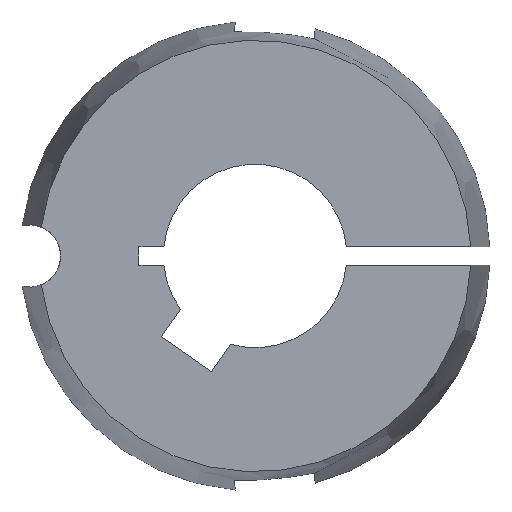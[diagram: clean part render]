
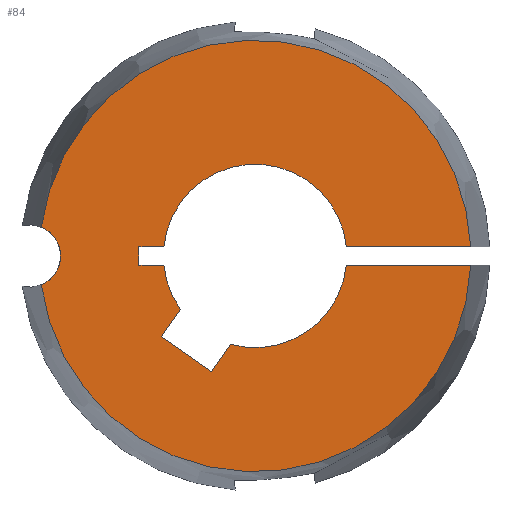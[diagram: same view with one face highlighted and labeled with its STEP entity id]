
A CAD part, left-side view. The second image highlights one B-rep face of the part: STEP entity #84.
In plain terms, the highlighted planar face has unit normal (-1, 0, 0).
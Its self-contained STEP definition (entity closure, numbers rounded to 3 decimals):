
#84 = ADVANCED_FACE( '', ( #114 ), #115, .F. );
#114 = FACE_OUTER_BOUND( '', #154, .T. );
#115 = PLANE( '', #155 );
#154 = EDGE_LOOP( '', ( #251, #252, #253, #254, #255, #256, #257, #258, #259, #260, #261, #262, #263, #264 ) );
#155 = AXIS2_PLACEMENT_3D( '', #265, #266, #267 );
#251 = ORIENTED_EDGE( '', *, *, #349, .T. );
#252 = ORIENTED_EDGE( '', *, *, #381, .F. );
#253 = ORIENTED_EDGE( '', *, *, #352, .T. );
#254 = ORIENTED_EDGE( '', *, *, #365, .T. );
#255 = ORIENTED_EDGE( '', *, *, #363, .T. );
#256 = ORIENTED_EDGE( '', *, *, #360, .T. );
#257 = ORIENTED_EDGE( '', *, *, #369, .T. );
#258 = ORIENTED_EDGE( '', *, *, #382, .T. );
#259 = ORIENTED_EDGE( '', *, *, #383, .T. );
#260 = ORIENTED_EDGE( '', *, *, #384, .T. );
#261 = ORIENTED_EDGE( '', *, *, #385, .T. );
#262 = ORIENTED_EDGE( '', *, *, #386, .T. );
#263 = ORIENTED_EDGE( '', *, *, #354, .T. );
#264 = ORIENTED_EDGE( '', *, *, #387, .F. );
#265 = CARTESIAN_POINT( '', ( -22.3, 0., 0. ) );
#266 = DIRECTION( '', ( 1., 0., 0. ) );
#267 = DIRECTION( '', ( 0., 0., -1. ) );
#349 = EDGE_CURVE( '', #402, #407, #409, .T. );
#352 = EDGE_CURVE( '', #415, #413, #416, .T. );
#354 = EDGE_CURVE( '', #418, #419, #420, .T. );
#360 = EDGE_CURVE( '', #431, #429, #432, .T. );
#363 = EDGE_CURVE( '', #436, #431, #437, .T. );
#365 = EDGE_CURVE( '', #413, #436, #439, .T. );
#369 = EDGE_CURVE( '', #429, #443, #445, .T. );
#381 = EDGE_CURVE( '', #415, #407, #465, .T. );
#382 = EDGE_CURVE( '', #443, #466, #467, .T. );
#383 = EDGE_CURVE( '', #466, #468, #469, .T. );
#384 = EDGE_CURVE( '', #468, #470, #471, .T. );
#385 = EDGE_CURVE( '', #470, #472, #473, .T. );
#386 = EDGE_CURVE( '', #472, #418, #474, .T. );
#387 = EDGE_CURVE( '', #402, #419, #475, .T. );
#402 = VERTEX_POINT( '', #513 );
#407 = VERTEX_POINT( '', #523 );
#409 = CIRCLE( '', #530, 2.55 );
#413 = VERTEX_POINT( '', #535 );
#415 = VERTEX_POINT( '', #538 );
#416 = LINE( '', #539, #540 );
#418 = VERTEX_POINT( '', #548 );
#419 = VERTEX_POINT( '', #549 );
#420 = LINE( '', #550, #551 );
#429 = VERTEX_POINT( '', #569 );
#431 = VERTEX_POINT( '', #572 );
#432 = LINE( '', #573, #574 );
#436 = VERTEX_POINT( '', #580 );
#437 = LINE( '', #581, #582 );
#439 = CIRCLE( '', #585, 7.5 );
#443 = VERTEX_POINT( '', #590 );
#445 = LINE( '', #593, #594 );
#465 = CIRCLE( '', #617, 17.641 );
#466 = VERTEX_POINT( '', #618 );
#467 = CIRCLE( '', #619, 7.5 );
#468 = VERTEX_POINT( '', #620 );
#469 = LINE( '', #621, #622 );
#470 = VERTEX_POINT( '', #623 );
#471 = LINE( '', #624, #625 );
#472 = VERTEX_POINT( '', #626 );
#473 = LINE( '', #627, #628 );
#474 = CIRCLE( '', #629, 7.5 );
#475 = CIRCLE( '', #630, 17.641 );
#513 = CARTESIAN_POINT( '', ( -22.3, 17.483, 2.355 ) );
#523 = CARTESIAN_POINT( '', ( -22.3, 17.483, -2.355 ) );
#530 = AXIS2_PLACEMENT_3D( '', #686, #687, #688 );
#535 = CARTESIAN_POINT( '', ( -22.3, -7.462, -0.75 ) );
#538 = CARTESIAN_POINT( '', ( -22.3, -17.625, -0.75 ) );
#539 = CARTESIAN_POINT( '', ( -22.3, -19.2, -0.75 ) );
#540 = VECTOR( '', #691, 1000. );
#548 = CARTESIAN_POINT( '', ( -22.3, -7.462, 0.75 ) );
#549 = CARTESIAN_POINT( '', ( -22.3, -17.625, 0.75 ) );
#550 = CARTESIAN_POINT( '', ( -22.3, 0., 0.75 ) );
#551 = VECTOR( '', #692, 1000. );
#569 = CARTESIAN_POINT( '', ( -22.3, 7.669, -6.594 ) );
#572 = CARTESIAN_POINT( '', ( -22.3, 3.573, -9.462 ) );
#573 = CARTESIAN_POINT( '', ( -22.3, 3.573, -9.462 ) );
#574 = VECTOR( '', #697, 1000. );
#580 = CARTESIAN_POINT( '', ( -22.3, 2.008, -7.226 ) );
#581 = CARTESIAN_POINT( '', ( -22.3, 2.008, -7.226 ) );
#582 = VECTOR( '', #700, 1000. );
#585 = AXIS2_PLACEMENT_3D( '', #702, #703, #704 );
#590 = CARTESIAN_POINT( '', ( -22.3, 6.104, -4.358 ) );
#593 = CARTESIAN_POINT( '', ( -22.3, 7.669, -6.594 ) );
#594 = VECTOR( '', #710, 1000. );
#617 = AXIS2_PLACEMENT_3D( '', #738, #739, #740 );
#618 = CARTESIAN_POINT( '', ( -22.3, 7.462, -0.75 ) );
#619 = AXIS2_PLACEMENT_3D( '', #741, #742, #743 );
#620 = CARTESIAN_POINT( '', ( -22.3, 9.5, -0.75 ) );
#621 = CARTESIAN_POINT( '', ( -22.3, 0., -0.75 ) );
#622 = VECTOR( '', #744, 1000. );
#623 = CARTESIAN_POINT( '', ( -22.3, 9.5, 0.75 ) );
#624 = CARTESIAN_POINT( '', ( -22.3, 9.5, -0.75 ) );
#625 = VECTOR( '', #745, 1000. );
#626 = CARTESIAN_POINT( '', ( -22.3, 7.462, 0.75 ) );
#627 = CARTESIAN_POINT( '', ( -22.3, 9.5, 0.75 ) );
#628 = VECTOR( '', #746, 1000. );
#629 = AXIS2_PLACEMENT_3D( '', #747, #748, #749 );
#630 = AXIS2_PLACEMENT_3D( '', #750, #751, #752 );
#686 = CARTESIAN_POINT( '', ( -22.3, 18.46, 0. ) );
#687 = DIRECTION( '', ( 1., 0., 0. ) );
#688 = DIRECTION( '', ( 0., 1., 0. ) );
#691 = DIRECTION( '', ( 0., 1., 0. ) );
#692 = DIRECTION( '', ( 0., -1., 0. ) );
#697 = DIRECTION( '', ( 0., 0.819, 0.574 ) );
#700 = DIRECTION( '', ( 0., 0.574, -0.819 ) );
#702 = CARTESIAN_POINT( '', ( -22.3, 0., 0. ) );
#703 = DIRECTION( '', ( 1., 0., 0. ) );
#704 = DIRECTION( '', ( 0., 0., -1. ) );
#710 = DIRECTION( '', ( 0., -0.574, 0.819 ) );
#738 = CARTESIAN_POINT( '', ( -22.3, 0., 0. ) );
#739 = DIRECTION( '', ( 1., 0., 0. ) );
#740 = DIRECTION( '', ( 0., 0., -1. ) );
#741 = CARTESIAN_POINT( '', ( -22.3, 0., 0. ) );
#742 = DIRECTION( '', ( 1., 0., 0. ) );
#743 = DIRECTION( '', ( 0., 0., -1. ) );
#744 = DIRECTION( '', ( 0., 1., 0. ) );
#745 = DIRECTION( '', ( 0., 0., 1. ) );
#746 = DIRECTION( '', ( 0., -1., 0. ) );
#747 = CARTESIAN_POINT( '', ( -22.3, 0., 0. ) );
#748 = DIRECTION( '', ( 1., 0., 0. ) );
#749 = DIRECTION( '', ( 0., 0., -1. ) );
#750 = CARTESIAN_POINT( '', ( -22.3, 0., 0. ) );
#751 = DIRECTION( '', ( 1., 0., 0. ) );
#752 = DIRECTION( '', ( 0., 0., -1. ) );
